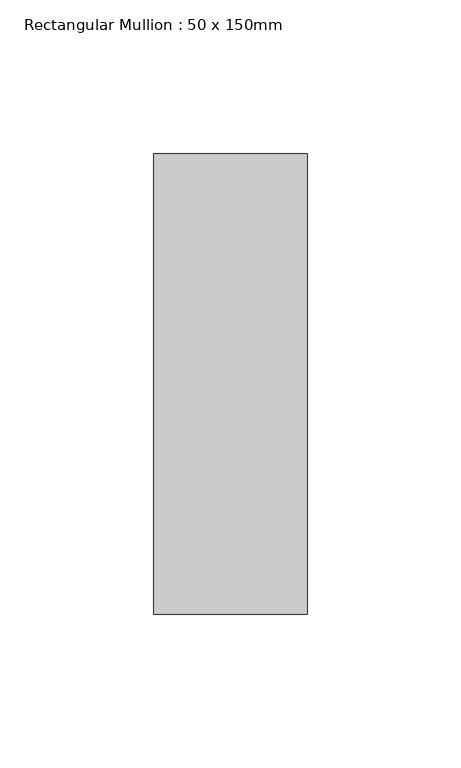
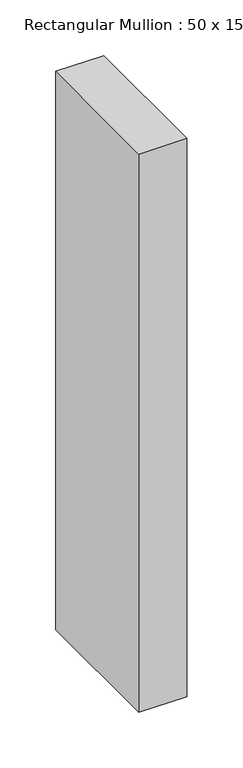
"""IFC4 building model written with IfcOpenShell, lengths in millimetres: member geometry, Rectangular Mullion : 50 x 150mm."""

from ifc_helpers import new_model, si_unit, frame, origin, place, context, project, spatial, polyline, outline, extrude, source, transform, mapped, element, save


def rectangular_mullion_50_x_150mm_4e612c1a(model_context):
    return source(origin(), model_context, "Body", "SweptSolid", [
        extrude(outline(polyline([(0.0, 75.0), (0.0, -75.0), (-50.0, -75.0), (-50.0, 75.0), (0.0, 75.0)])), frame((0.0, 0.0, -613.3333335), z_axis=(0.0, 0.0, 1.0), x_axis=(1.0, 0.0, 0.0)), (0.0, 0.0, 1.0), 613.3333335),
    ])


if __name__ == "__main__":
    model = new_model("IFC4")
    model_context = context("Model", 3, world=origin())
    ifc_project = project(units=[si_unit("LENGTHUNIT", "METRE", prefix="MILLI")], contexts=[model_context])
    site = spatial("IfcSite", under=ifc_project)
    building = spatial("IfcBuilding", under=site)
    placement = place(None, origin())
    rectangular_mullion_50_x_150mm_shape = rectangular_mullion_50_x_150mm_4e612c1a(model_context)
    element("IfcMember", 1, ObjectType="Rectangular Mullion : 50 x 150mm", at=placement, inside=building, context=model_context, shape_type="MappedRepresentation", body=[
        mapped(rectangular_mullion_50_x_150mm_shape, transform((0.0, 0.0, 0.0), x_axis=(1.0, 0.0, 0.0), y_axis=(0.0, 1.0, 0.0), z_axis=(0.0, 0.0, 1.0))),
    ])
    save(model, "model.ifc")
